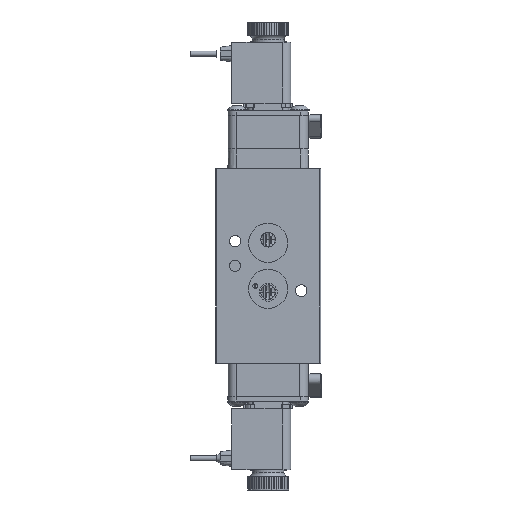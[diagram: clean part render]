
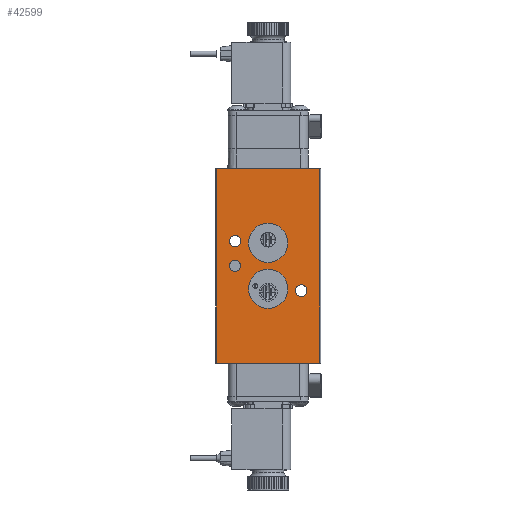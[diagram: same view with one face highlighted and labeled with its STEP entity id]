
A CAD part, front view. The second image highlights one B-rep face of the part: STEP entity #42599.
In plain terms, the highlighted planar face has unit normal (0, -1, 0).
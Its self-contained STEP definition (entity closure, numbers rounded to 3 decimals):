
#488=FACE_BOUND('',#6840,.T.);
#489=FACE_BOUND('',#6841,.T.);
#490=FACE_BOUND('',#6842,.T.);
#491=FACE_BOUND('',#6843,.T.);
#492=FACE_BOUND('',#6844,.T.);
#1829=CIRCLE('',#45427,0.953);
#1831=CIRCLE('',#45431,0.953);
#1834=CIRCLE('',#45437,0.276);
#1835=CIRCLE('',#45439,0.278);
#1836=CIRCLE('',#45441,0.278);
#4355=FACE_OUTER_BOUND('',#6839,.T.);
#6839=EDGE_LOOP('',(#29321,#29322,#29323,#29324));
#6840=EDGE_LOOP('',(#29325));
#6841=EDGE_LOOP('',(#29326));
#6842=EDGE_LOOP('',(#29327));
#6843=EDGE_LOOP('',(#29328));
#6844=EDGE_LOOP('',(#29329));
#9483=LINE('',#63884,#12670);
#9513=LINE('',#64044,#12700);
#9840=LINE('',#66446,#13027);
#9843=LINE('',#66452,#13030);
#12670=VECTOR('',#50735,1.);
#12700=VECTOR('',#50873,1.);
#13027=VECTOR('',#51842,1.);
#13030=VECTOR('',#51851,1.);
#16714=VERTEX_POINT('',#63880);
#16716=VERTEX_POINT('',#63883);
#16788=VERTEX_POINT('',#64033);
#16792=VERTEX_POINT('',#64042);
#17182=VERTEX_POINT('',#66379);
#17184=VERTEX_POINT('',#66386);
#17188=VERTEX_POINT('',#66398);
#17189=VERTEX_POINT('',#66402);
#17190=VERTEX_POINT('',#66406);
#20979=EDGE_CURVE('',#16716,#16714,#9483,.T.);
#21059=EDGE_CURVE('',#16788,#16792,#9513,.T.);
#21626=EDGE_CURVE('',#17182,#17182,#1829,.T.);
#21629=EDGE_CURVE('',#17184,#17184,#1831,.T.);
#21634=EDGE_CURVE('',#17188,#17188,#1834,.T.);
#21637=EDGE_CURVE('',#17189,#17189,#1835,.T.);
#21639=EDGE_CURVE('',#17190,#17190,#1836,.T.);
#21658=EDGE_CURVE('',#16788,#16714,#9840,.T.);
#21661=EDGE_CURVE('',#16716,#16792,#9843,.T.);
#29321=ORIENTED_EDGE('',*,*,#21658,.F.);
#29322=ORIENTED_EDGE('',*,*,#21059,.T.);
#29323=ORIENTED_EDGE('',*,*,#21661,.F.);
#29324=ORIENTED_EDGE('',*,*,#20979,.T.);
#29325=ORIENTED_EDGE('',*,*,#21626,.T.);
#29326=ORIENTED_EDGE('',*,*,#21629,.T.);
#29327=ORIENTED_EDGE('',*,*,#21634,.T.);
#29328=ORIENTED_EDGE('',*,*,#21637,.T.);
#29329=ORIENTED_EDGE('',*,*,#21639,.T.);
#38742=PLANE('',#45466);
#42599=ADVANCED_FACE('',(#4355,#488,#489,#490,#491,#492),#38742,.T.);
#45427=AXIS2_PLACEMENT_3D('',#66380,#51757,#51758);
#45431=AXIS2_PLACEMENT_3D('',#66387,#51766,#51767);
#45437=AXIS2_PLACEMENT_3D('',#66399,#51780,#51781);
#45439=AXIS2_PLACEMENT_3D('',#66404,#51786,#51787);
#45441=AXIS2_PLACEMENT_3D('',#66408,#51791,#51792);
#45466=AXIS2_PLACEMENT_3D('',#66455,#51856,#51857);
#50735=DIRECTION('',(-1.,0.,0.));
#50873=DIRECTION('',(1.,0.,0.));
#51757=DIRECTION('center_axis',(0.,1.,0.));
#51758=DIRECTION('ref_axis',(-1.,0.,0.));
#51766=DIRECTION('center_axis',(0.,1.,0.));
#51767=DIRECTION('ref_axis',(-1.,0.,0.));
#51780=DIRECTION('center_axis',(0.,1.,0.));
#51781=DIRECTION('ref_axis',(1.,0.,0.));
#51786=DIRECTION('center_axis',(0.,1.,0.));
#51787=DIRECTION('ref_axis',(1.,0.,0.));
#51791=DIRECTION('center_axis',(0.,1.,0.));
#51792=DIRECTION('ref_axis',(1.,0.,0.));
#51842=DIRECTION('',(0.,0.,1.));
#51851=DIRECTION('',(0.,0.,-1.));
#51856=DIRECTION('center_axis',(0.,-1.,0.));
#51857=DIRECTION('ref_axis',(0.,0.,-1.));
#63880=CARTESIAN_POINT('',(-2.5,-1.636,4.71));
#63883=CARTESIAN_POINT('',(2.5,-1.636,4.71));
#63884=CARTESIAN_POINT('',(-2.54,-1.636,4.71));
#64033=CARTESIAN_POINT('',(-2.5,-1.636,-4.71));
#64042=CARTESIAN_POINT('',(2.5,-1.636,-4.71));
#64044=CARTESIAN_POINT('',(-2.54,-1.636,-4.71));
#66379=CARTESIAN_POINT('',(0.953,-1.636,1.111));
#66380=CARTESIAN_POINT('Origin',(0.,-1.636,1.111));
#66386=CARTESIAN_POINT('',(0.953,-1.636,-1.111));
#66387=CARTESIAN_POINT('Origin',(0.,-1.636,-1.111));
#66398=CARTESIAN_POINT('',(-1.876,-1.636,-0.001));
#66399=CARTESIAN_POINT('Origin',(-1.6,-1.636,-0.001));
#66402=CARTESIAN_POINT('',(1.322,-1.636,-1.2));
#66404=CARTESIAN_POINT('Origin',(1.6,-1.636,-1.2));
#66406=CARTESIAN_POINT('',(-1.878,-1.636,1.2));
#66408=CARTESIAN_POINT('Origin',(-1.6,-1.636,1.2));
#66446=CARTESIAN_POINT('',(-2.5,-1.636,0.));
#66452=CARTESIAN_POINT('',(2.5,-1.636,0.));
#66455=CARTESIAN_POINT('Origin',(2.54,-1.636,0.));
